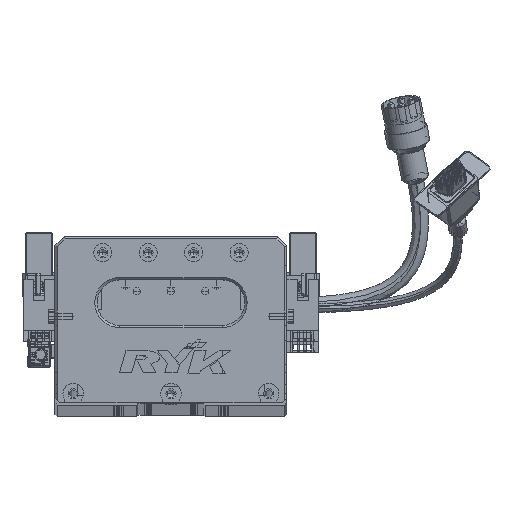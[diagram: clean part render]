
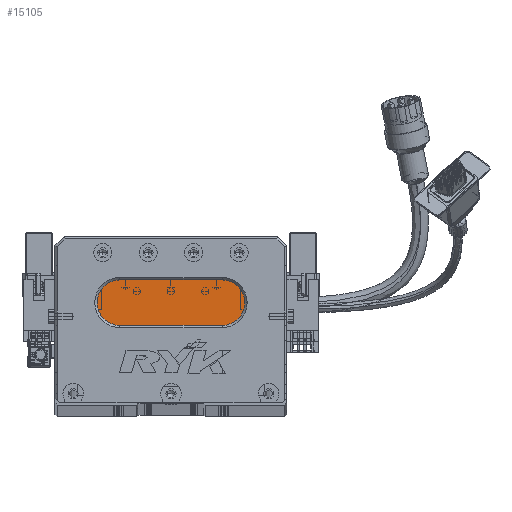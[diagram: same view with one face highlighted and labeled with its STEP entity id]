
A CAD part, top view. The second image highlights one B-rep face of the part: STEP entity #15105.
In plain terms, the highlighted planar face has unit normal (0, 0, 1) as drawn and (0, 0, -1) by its records, which use the part's own axes.
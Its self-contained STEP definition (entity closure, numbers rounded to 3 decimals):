
#1994 = CIRCLE ( 'NONE', #8615, 10. ) ;
#2703 = CARTESIAN_POINT ( 'NONE',  ( 73.5, 44., 13. ) ) ;
#3308 = DIRECTION ( 'NONE',  ( -1., 0., 0. ) ) ;
#5319 = CIRCLE ( 'NONE', #58242, 10. ) ;
#8615 = AXIS2_PLACEMENT_3D ( 'NONE', #15367, #83640, #41878 ) ;
#11426 = AXIS2_PLACEMENT_3D ( 'NONE', #39706, #69505, #17939 ) ;
#12376 = VERTEX_POINT ( 'NONE', #42130 ) ;
#13072 = ORIENTED_EDGE ( 'NONE', *, *, #72384, .T. ) ;
#15105 = ADVANCED_FACE ( 'NONE', ( #50583 ), #23698, .T. ) ;
#15365 = CARTESIAN_POINT ( 'NONE',  ( 28.5, 34., 13. ) ) ;
#15367 = CARTESIAN_POINT ( 'NONE',  ( 28.5, 44., 13. ) ) ;
#17939 = DIRECTION ( 'NONE',  ( -1., 0., 0. ) ) ;
#20100 = DIRECTION ( 'NONE',  ( -1., 0., 0. ) ) ;
#23698 = PLANE ( 'NONE',  #89291 ) ;
#27379 = CARTESIAN_POINT ( 'NONE',  ( 28.5, 44., 13. ) ) ;
#29535 = LINE ( 'NONE', #64292, #82976 ) ;
#30107 = DIRECTION ( 'NONE',  ( -1., 0., 0. ) ) ;
#30422 = DIRECTION ( 'NONE',  ( 0., 0., -1. ) ) ;
#33160 = DIRECTION ( 'NONE',  ( 1., 0., 0. ) ) ;
#35073 = EDGE_CURVE ( 'NONE', #54435, #83194, #5319, .T. ) ;
#38152 = ORIENTED_EDGE ( 'NONE', *, *, #35073, .T. ) ;
#39047 = EDGE_CURVE ( 'NONE', #12376, #89646, #55311, .T. ) ;
#39706 = CARTESIAN_POINT ( 'NONE',  ( 73.5, 44., 13. ) ) ;
#41878 = DIRECTION ( 'NONE',  ( -1., 0., 0. ) ) ;
#42130 = CARTESIAN_POINT ( 'NONE',  ( 73.5, 54., 13. ) ) ;
#43169 = EDGE_LOOP ( 'NONE', ( #48941, #13072, #38152, #82997, #49062 ) ) ;
#47459 = CARTESIAN_POINT ( 'NONE',  ( 73.5, 54., 13. ) ) ;
#48941 = ORIENTED_EDGE ( 'NONE', *, *, #39047, .T. ) ;
#49062 = ORIENTED_EDGE ( 'NONE', *, *, #65058, .T. ) ;
#50583 = FACE_OUTER_BOUND ( 'NONE', #43169, .T. ) ;
#54435 = VERTEX_POINT ( 'NONE', #15365 ) ;
#55311 = CIRCLE ( 'NONE', #11426, 10. ) ;
#56567 = CARTESIAN_POINT ( 'NONE',  ( 18.5, 44., 13. ) ) ;
#56888 = EDGE_CURVE ( 'NONE', #83194, #61430, #1994, .T. ) ;
#58242 = AXIS2_PLACEMENT_3D ( 'NONE', #27379, #76775, #20100 ) ;
#61430 = VERTEX_POINT ( 'NONE', #74136 ) ;
#64292 = CARTESIAN_POINT ( 'NONE',  ( 73.5, 34., 13. ) ) ;
#64873 = CARTESIAN_POINT ( 'NONE',  ( 73.5, 34., 13. ) ) ;
#65058 = EDGE_CURVE ( 'NONE', #61430, #12376, #66643, .T. ) ;
#66643 = LINE ( 'NONE', #47459, #87329 ) ;
#69505 = DIRECTION ( 'NONE',  ( 0., 0., -1. ) ) ;
#72384 = EDGE_CURVE ( 'NONE', #89646, #54435, #29535, .T. ) ;
#74136 = CARTESIAN_POINT ( 'NONE',  ( 28.5, 54., 13. ) ) ;
#76775 = DIRECTION ( 'NONE',  ( 0., 0., -1. ) ) ;
#82976 = VECTOR ( 'NONE', #30107, 1000. ) ;
#82997 = ORIENTED_EDGE ( 'NONE', *, *, #56888, .T. ) ;
#83194 = VERTEX_POINT ( 'NONE', #56567 ) ;
#83640 = DIRECTION ( 'NONE',  ( 0., 0., -1. ) ) ;
#87329 = VECTOR ( 'NONE', #33160, 1000. ) ;
#89291 = AXIS2_PLACEMENT_3D ( 'NONE', #2703, #30422, #3308 ) ;
#89646 = VERTEX_POINT ( 'NONE', #64873 ) ;
